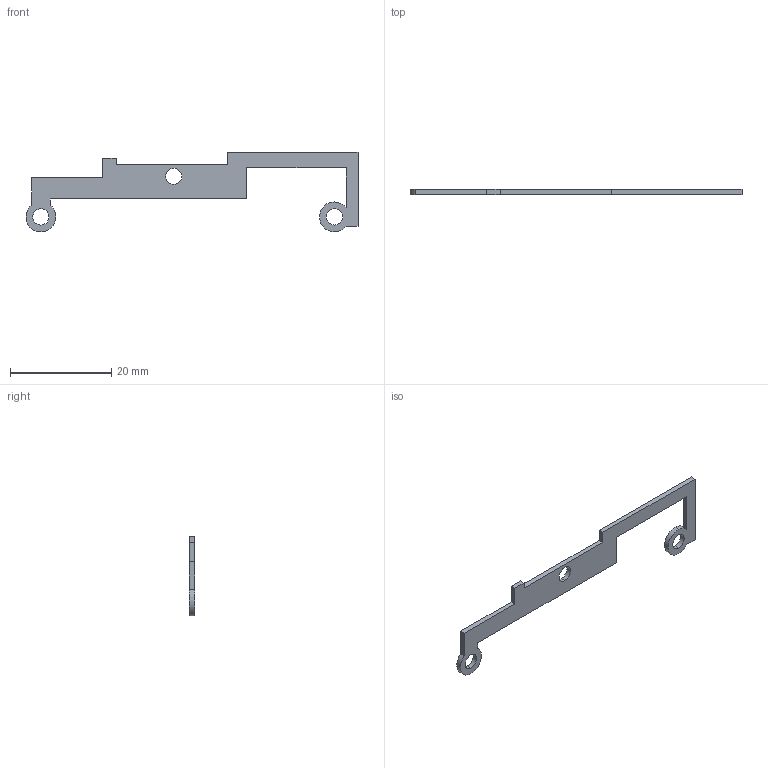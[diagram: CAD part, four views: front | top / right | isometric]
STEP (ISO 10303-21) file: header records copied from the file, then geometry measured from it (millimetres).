
FILE_DESCRIPTION (( 'STEP AP214' ), '1' );
FILE_NAME ('geeekpi 2.STEP', '2022-01-16T09:04:11', ( '' ), ( '' ), 'SwSTEP 2.0', 'SolidWorks 2021', '' );
FILE_SCHEMA (( 'AUTOMOTIVE_DESIGN' ));
Length unit declared in the file: millimetre
Products named in the file (1): geeekpi 2
Bounding box: 65.59 x 1 x 15.75 mm (x, y, z)
Volume: 391.6 mm3; surface area: 1010.7 mm2
Topology: 1 solids, 1 shells, 29 faces, 81 edges, 54 vertices
Faces by surface type: plane 18, cylinder 11
Entity records: 983 total; most frequent: CARTESIAN_POINT 165, DIRECTION 163, ORIENTED_EDGE 162, EDGE_CURVE 81, LINE 59, VECTOR 59, VERTEX_POINT 54, AXIS2_PLACEMENT_3D 52
